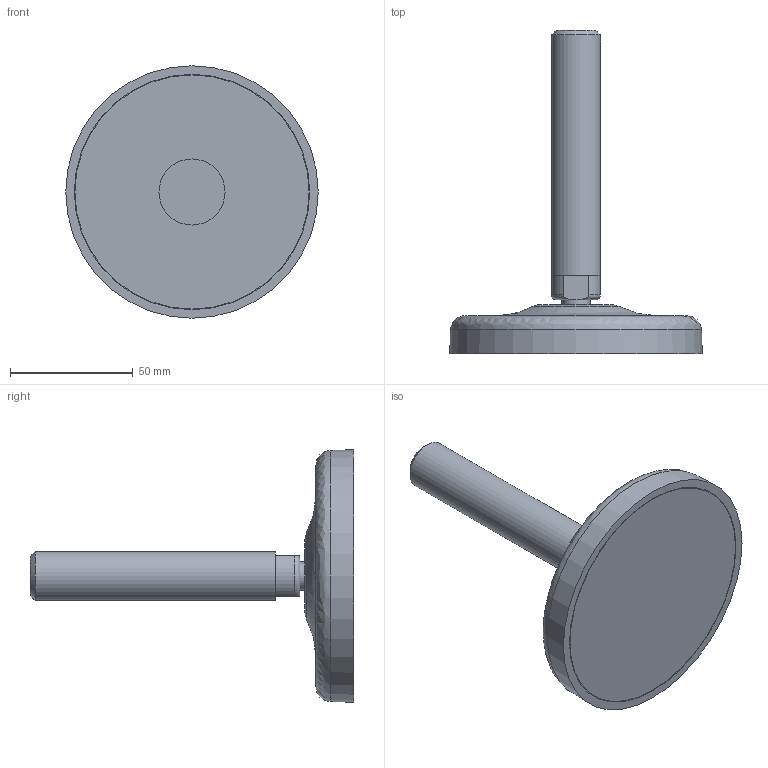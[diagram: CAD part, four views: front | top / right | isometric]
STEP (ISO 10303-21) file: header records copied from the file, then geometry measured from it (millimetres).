
FILE_DESCRIPTION(('STEP AP203'),'2;1');
FILE_NAME('18562.stp','2017-05-03T15:03:47',(''),(''),'2014.1.117','THINKDESIGN','');
FILE_SCHEMA(('CONFIG_CONTROL_DESIGN'));
Length unit declared in the file: millimetre
Bounding box: 103 x 132 x 103 mm (x, y, z)
Volume: 170151.3 mm3; surface area: 45880.9 mm2
Topology: 4 solids, 4 shells, 27 faces, 63 edges, 48 vertices
Faces by surface type: plane 13, bspline 7, cylinder 7
Full cylindrical faces by diameter (mm): 11.5 x1, 20 x1, 27 x1, 95.5 x1, 96 x1
Entity records: 1314 total; most frequent: CARTESIAN_POINT 484, DIRECTION 146, ORIENTED_EDGE 122, AXIS2_PLACEMENT_3D 66, EDGE_CURVE 61, VERTEX_POINT 46, CIRCLE 46, EDGE_LOOP 31
